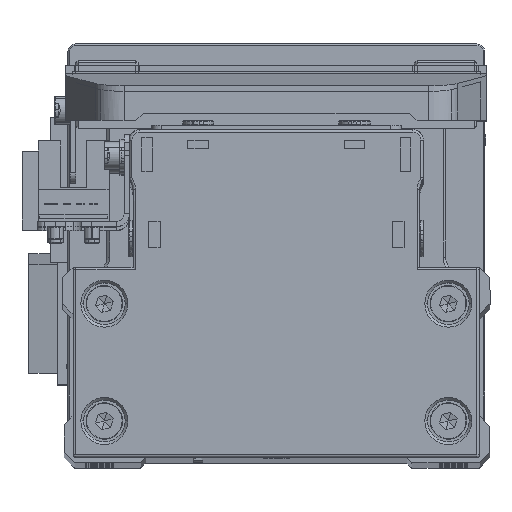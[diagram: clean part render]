
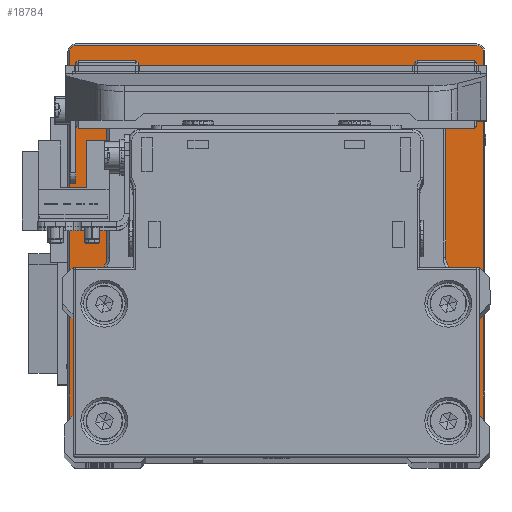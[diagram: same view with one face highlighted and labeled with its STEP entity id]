
A CAD part, top view. The second image highlights one B-rep face of the part: STEP entity #18784.
In plain terms, the highlighted planar face has unit normal (0, 0, 1) as drawn and (0, 1, 0) by its records, which use the part's own axes.
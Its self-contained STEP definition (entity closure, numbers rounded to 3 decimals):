
#240 = VERTEX_POINT ( 'NONE', #6992 ) ;
#254 = ORIENTED_EDGE ( 'NONE', *, *, #8879, .T. ) ;
#768 = CARTESIAN_POINT ( 'NONE',  ( 38.5, 12., 38.5 ) ) ;
#1582 = DIRECTION ( 'NONE',  ( 0., 0., -1. ) ) ;
#1722 = DIRECTION ( 'NONE',  ( 0., 0., -1. ) ) ;
#2472 = CARTESIAN_POINT ( 'NONE',  ( 0., 12., -39.7 ) ) ;
#2754 = CARTESIAN_POINT ( 'NONE',  ( 0., 12., 0. ) ) ;
#3441 = ORIENTED_EDGE ( 'NONE', *, *, #21964, .T. ) ;
#4104 = DIRECTION ( 'NONE',  ( 0., 1., 0. ) ) ;
#4144 = CIRCLE ( 'NONE', #9257, 1.2 ) ;
#4457 = DIRECTION ( 'NONE',  ( 0., 0., -1. ) ) ;
#4909 = CARTESIAN_POINT ( 'NONE',  ( -38.5, 12., -38.5 ) ) ;
#5565 = DIRECTION ( 'NONE',  ( 1., 0., 0. ) ) ;
#6198 = EDGE_LOOP ( 'NONE', ( #26599, #25224 ) ) ;
#6992 = CARTESIAN_POINT ( 'NONE',  ( -38.5, 12., 39.7 ) ) ;
#7442 = PLANE ( 'NONE',  #25583 ) ;
#7600 = EDGE_CURVE ( 'NONE', #33995, #26498, #23282, .T. ) ;
#7934 = CARTESIAN_POINT ( 'NONE',  ( -39.7, 12., 38.5 ) ) ;
#8080 = VERTEX_POINT ( 'NONE', #32197 ) ;
#8127 = DIRECTION ( 'NONE',  ( 0., 0., 1. ) ) ;
#8845 = AXIS2_PLACEMENT_3D ( 'NONE', #4909, #17066, #29230 ) ;
#8879 = EDGE_CURVE ( 'NONE', #25181, #34896, #9708, .T. ) ;
#9257 = AXIS2_PLACEMENT_3D ( 'NONE', #16759, #28928, #1582 ) ;
#9708 = CIRCLE ( 'NONE', #31987, 1.2 ) ;
#9767 = LINE ( 'NONE', #21935, #26473 ) ;
#9956 = CARTESIAN_POINT ( 'NONE',  ( 0., 12., 20.5 ) ) ;
#10661 = ORIENTED_EDGE ( 'NONE', *, *, #25190, .T. ) ;
#11561 = AXIS2_PLACEMENT_3D ( 'NONE', #768, #12955, #25118 ) ;
#11593 = ORIENTED_EDGE ( 'NONE', *, *, #15234, .T. ) ;
#11716 = CIRCLE ( 'NONE', #34001, 20.5 ) ;
#11755 = ORIENTED_EDGE ( 'NONE', *, *, #12938, .T. ) ;
#11891 = ORIENTED_EDGE ( 'NONE', *, *, #32107, .T. ) ;
#12938 = EDGE_CURVE ( 'NONE', #240, #14220, #20726, .T. ) ;
#12955 = DIRECTION ( 'NONE',  ( 0., 1., 0. ) ) ;
#14220 = VERTEX_POINT ( 'NONE', #38793 ) ;
#14649 = DIRECTION ( 'NONE',  ( -1., 0., 0. ) ) ;
#14756 = CARTESIAN_POINT ( 'NONE',  ( -38.5, 12., -39.7 ) ) ;
#14925 = DIRECTION ( 'NONE',  ( 0., 1., 0. ) ) ;
#15234 = EDGE_CURVE ( 'NONE', #33864, #25181, #9767, .T. ) ;
#16280 = DIRECTION ( 'NONE',  ( 0., 0., 1. ) ) ;
#16759 = CARTESIAN_POINT ( 'NONE',  ( -38.5, 12., 38.5 ) ) ;
#16897 = CARTESIAN_POINT ( 'NONE',  ( 38.5, 12., -38.5 ) ) ;
#17066 = DIRECTION ( 'NONE',  ( 0., 1., 0. ) ) ;
#17804 = VERTEX_POINT ( 'NONE', #9956 ) ;
#18784 = ADVANCED_FACE ( 'NONE', ( #22598, #34755 ), #7442, .F. ) ;
#19008 = AXIS2_PLACEMENT_3D ( 'NONE', #2754, #14925, #27103 ) ;
#19615 = CARTESIAN_POINT ( 'NONE',  ( 0., 12., 0. ) ) ;
#20113 = VECTOR ( 'NONE', #14649, 1000. ) ;
#20200 = CARTESIAN_POINT ( 'NONE',  ( -39.7, 12., -38.5 ) ) ;
#20726 = LINE ( 'NONE', #32881, #35038 ) ;
#21935 = CARTESIAN_POINT ( 'NONE',  ( 39.7, 12., 0. ) ) ;
#21964 = EDGE_CURVE ( 'NONE', #34896, #25376, #29806, .T. ) ;
#22598 = FACE_OUTER_BOUND ( 'NONE', #38949, .T. ) ;
#22765 = CARTESIAN_POINT ( 'NONE',  ( 39.7, 12., -38.5 ) ) ;
#23282 = LINE ( 'NONE', #35435, #31782 ) ;
#24195 = EDGE_CURVE ( 'NONE', #17804, #8080, #11716, .T. ) ;
#25118 = DIRECTION ( 'NONE',  ( 0., 0., -1. ) ) ;
#25181 = VERTEX_POINT ( 'NONE', #22765 ) ;
#25190 = EDGE_CURVE ( 'NONE', #26498, #240, #4144, .T. ) ;
#25224 = ORIENTED_EDGE ( 'NONE', *, *, #34589, .F. ) ;
#25376 = VERTEX_POINT ( 'NONE', #14756 ) ;
#25583 = AXIS2_PLACEMENT_3D ( 'NONE', #19615, #31771, #4457 ) ;
#26022 = CIRCLE ( 'NONE', #8845, 1.2 ) ;
#26473 = VECTOR ( 'NONE', #34080, 1000. ) ;
#26498 = VERTEX_POINT ( 'NONE', #7934 ) ;
#26599 = ORIENTED_EDGE ( 'NONE', *, *, #24195, .F. ) ;
#26916 = EDGE_CURVE ( 'NONE', #25376, #33995, #26022, .T. ) ;
#27103 = DIRECTION ( 'NONE',  ( 0., 0., 1. ) ) ;
#27890 = CARTESIAN_POINT ( 'NONE',  ( 39.7, 12., 38.5 ) ) ;
#28738 = CIRCLE ( 'NONE', #11561, 1.2 ) ;
#28928 = DIRECTION ( 'NONE',  ( 0., 1., 0. ) ) ;
#29065 = DIRECTION ( 'NONE',  ( 0., 1., 0. ) ) ;
#29230 = DIRECTION ( 'NONE',  ( 0., 0., -1. ) ) ;
#29806 = LINE ( 'NONE', #2472, #20113 ) ;
#31431 = CARTESIAN_POINT ( 'NONE',  ( 0., 12., 0. ) ) ;
#31771 = DIRECTION ( 'NONE',  ( 0., -1., 0. ) ) ;
#31782 = VECTOR ( 'NONE', #8127, 1000. ) ;
#31800 = ORIENTED_EDGE ( 'NONE', *, *, #7600, .T. ) ;
#31987 = AXIS2_PLACEMENT_3D ( 'NONE', #16897, #29065, #1722 ) ;
#32107 = EDGE_CURVE ( 'NONE', #14220, #33864, #28738, .T. ) ;
#32197 = CARTESIAN_POINT ( 'NONE',  ( 0., 12., -20.5 ) ) ;
#32881 = CARTESIAN_POINT ( 'NONE',  ( 0., 12., 39.7 ) ) ;
#33864 = VERTEX_POINT ( 'NONE', #27890 ) ;
#33995 = VERTEX_POINT ( 'NONE', #20200 ) ;
#34001 = AXIS2_PLACEMENT_3D ( 'NONE', #31431, #4104, #16280 ) ;
#34080 = DIRECTION ( 'NONE',  ( 0., 0., -1. ) ) ;
#34589 = EDGE_CURVE ( 'NONE', #8080, #17804, #36188, .T. ) ;
#34755 = FACE_BOUND ( 'NONE', #6198, .T. ) ;
#34896 = VERTEX_POINT ( 'NONE', #35044 ) ;
#35038 = VECTOR ( 'NONE', #5565, 1000. ) ;
#35044 = CARTESIAN_POINT ( 'NONE',  ( 38.5, 12., -39.7 ) ) ;
#35435 = CARTESIAN_POINT ( 'NONE',  ( -39.7, 12., 0. ) ) ;
#35639 = ORIENTED_EDGE ( 'NONE', *, *, #26916, .T. ) ;
#36188 = CIRCLE ( 'NONE', #19008, 20.5 ) ;
#38793 = CARTESIAN_POINT ( 'NONE',  ( 38.5, 12., 39.7 ) ) ;
#38949 = EDGE_LOOP ( 'NONE', ( #254, #3441, #35639, #31800, #10661, #11755, #11891, #11593 ) ) ;
